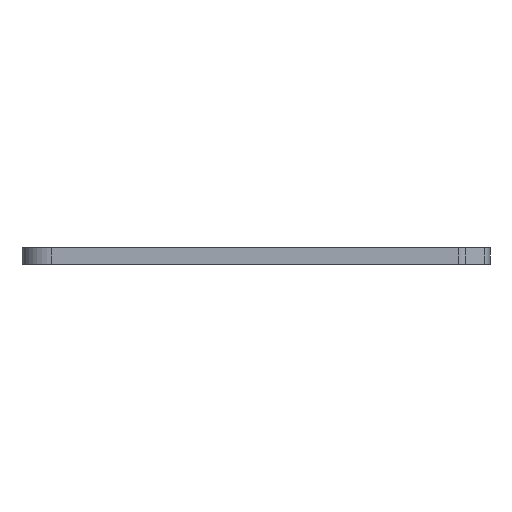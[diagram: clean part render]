
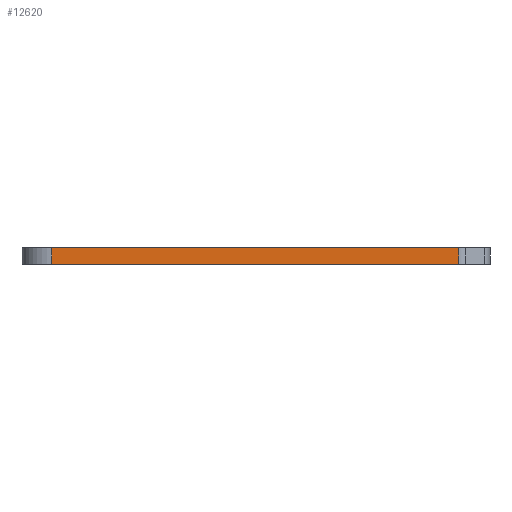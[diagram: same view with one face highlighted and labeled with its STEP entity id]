
A CAD part, front view. The second image highlights one B-rep face of the part: STEP entity #12620.
In plain terms, the highlighted planar face has unit normal (0, -1, 0).
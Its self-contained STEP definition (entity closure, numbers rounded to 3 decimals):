
#3960=CARTESIAN_POINT('',(10.78,-38.2,
0.));
#3970=VERTEX_POINT('',#3960);
#4000=CARTESIAN_POINT('',(47.92,-38.2,
0.));
#4010=DIRECTION('',(1.,0.,0.));
#4020=VECTOR('',#4010,1.);
#4030=LINE('',#4000,#4020);
#4040=CARTESIAN_POINT('',(65.195,-38.2,
0.));
#4050=VERTEX_POINT('',#4040);
#4060=EDGE_CURVE('',#3970,#4050,#4030,.T.);
#8550=CARTESIAN_POINT('',(65.195,-38.2,
2.2));
#8560=VERTEX_POINT('',#8550);
#8590=CARTESIAN_POINT('',(47.92,-38.2,2.2))
;
#8600=DIRECTION('',(-1.,0.,0.));
#8610=VECTOR('',#8600,1.);
#8620=LINE('',#8590,#8610);
#8630=CARTESIAN_POINT('',(10.78,-38.2,
2.2));
#8640=VERTEX_POINT('',#8630);
#8650=EDGE_CURVE('',#8560,#8640,#8620,.T.);
#12110=CARTESIAN_POINT('',(10.78,-38.2,
0.));
#12120=DIRECTION('',(0.,0.,-1.));
#12130=VECTOR('',#12120,1.);
#12140=LINE('',#12110,#12130);
#12150=EDGE_CURVE('',#8640,#3970,#12140,.T.);
#12460=CARTESIAN_POINT('',(65.363,-38.2,
2.2));
#12470=DIRECTION('',(-0.,-1.,-0.));
#12480=DIRECTION('',(-1.,0.,0.));
#12490=AXIS2_PLACEMENT_3D('',#12460,#12470,#12480);
#12500=PLANE('',#12490);
#12510=CARTESIAN_POINT('',(65.195,-38.2,
0.));
#12520=DIRECTION('',(0.,0.,-1.));
#12530=VECTOR('',#12520,1.);
#12540=LINE('',#12510,#12530);
#12550=EDGE_CURVE('',#8560,#4050,#12540,.T.);
#12560=ORIENTED_EDGE('',*,*,#12550,.F.);
#12570=ORIENTED_EDGE('',*,*,#4060,.T.);
#12580=ORIENTED_EDGE('',*,*,#12150,.T.);
#12590=ORIENTED_EDGE('',*,*,#8650,.T.);
#12600=EDGE_LOOP('',(#12590,#12580,#12570,#12560));
#12610=FACE_OUTER_BOUND('',#12600,.T.);
#12620=ADVANCED_FACE('',(#12610),#12500,.T.);
